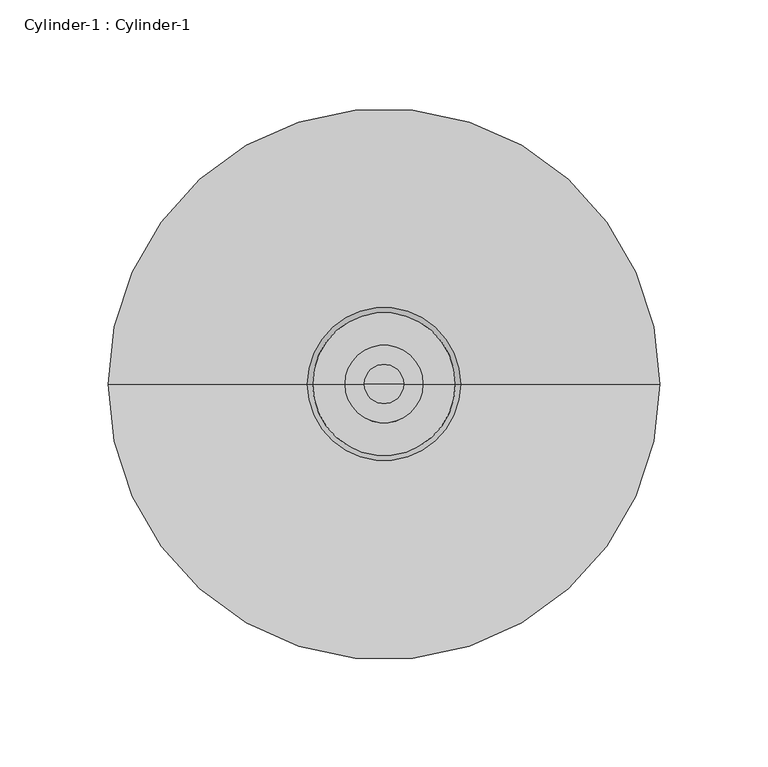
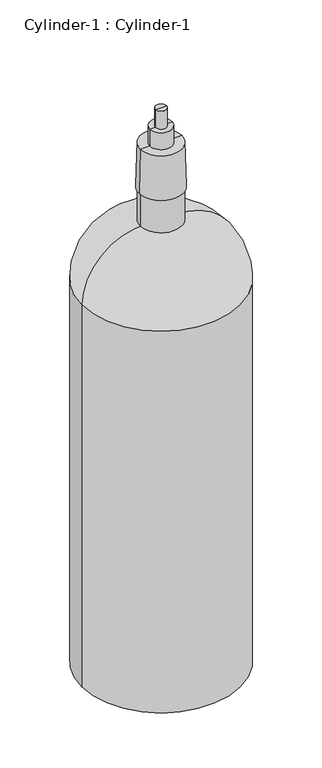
"""IFC4 building model written with IfcOpenShell, lengths in millimetres: alarm geometry, Cylinder-1 : Cylinder-1."""

from ifc_helpers import new_model, si_unit, point, frame, origin, place, context, project, spatial, polyline, circle_curve, ellipse_curve, trimmed, source, transform, mapped, element, save
from ifc_brep_helpers import plane_surface, cylinder_surface, revolved_surface, advanced_brep


def cylinder_1_cylinder_1_a0b04ee7(model_context):
    return source(origin(), model_context, "Body", "AdvancedBrep", [
        advanced_brep(
        [(9.0219829, 0.0, 906.6426081), (-9.0219829, 0.0, 906.6426081), (-9.0219829, 0.0, 936.75), (9.0219829, 0.0, 936.75), (17.9261315, 0.0, 906.6426081), (-17.9261315, 0.0, 906.6426081), (17.9261315, 0.0, 878.25926), (-17.9261315, 0.0, 878.25926), (32.9524445, 0.0, 878.25926), (-32.9524445, 0.0, 878.25926), (35.2648942, 0.0, 803.777946), (-35.2648942, 0.0, 803.777946), (33.1140302, 0.0, 803.777946), (-33.1140302, 0.0, 803.777946), (33.1817509, 0.0, 748.0909881), (-33.1817509, 0.0, 748.0909881), (0.0, 0.0, 748.0909881), (0.0, 0.0, 936.75)],
        [
            (0, 1, circle_curve(frame((0.0, 0.0, 906.6426081), z_axis=(0.0, 0.0, 1.0), x_axis=(-1.0, 0.0, 0.0)), 9.0219829)),
            (1, 2),
            (2, 3, circle_curve(frame((0.0, 0.0, 936.75), z_axis=(0.0, 0.0, -1.0), x_axis=(-1.0, 0.0, 0.0)), 9.0219829)),
            (3, 0),
            (1, 0, circle_curve(frame((0.0, 0.0, 906.6426081), z_axis=(0.0, 0.0, 1.0), x_axis=(-1.0, 0.0, 0.0)), 9.0219829)),
            (3, 2, circle_curve(frame((0.0, 0.0, 936.75), z_axis=(0.0, 0.0, -1.0), x_axis=(-1.0, 0.0, 0.0)), 9.0219829)),
            (4, 5, circle_curve(frame((0.0, 0.0, 906.6426081), z_axis=(0.0, 0.0, 1.0), x_axis=(-1.0, 0.0, 0.0)), 17.9261315)),
            (5, 1),
            (0, 4),
            (5, 4, circle_curve(frame((0.0, 0.0, 906.6426081), z_axis=(0.0, 0.0, 1.0), x_axis=(-1.0, 0.0, 0.0)), 17.9261315)),
            (6, 7, circle_curve(frame((0.0, 0.0, 878.25926), z_axis=(0.0, 0.0, 1.0), x_axis=(-1.0, 0.0, 0.0)), 17.9261315)),
            (7, 5),
            (4, 6),
            (7, 6, circle_curve(frame((0.0, 0.0, 878.25926), z_axis=(0.0, 0.0, 1.0), x_axis=(-1.0, 0.0, 0.0)), 17.9261315)),
            (8, 9, circle_curve(frame((0.0, 0.0, 878.25926), z_axis=(0.0, 0.0, 1.0), x_axis=(-1.0, 0.0, 0.0)), 32.9524445)),
            (9, 7),
            (6, 8),
            (9, 8, circle_curve(frame((0.0, 0.0, 878.25926), z_axis=(0.0, 0.0, 1.0), x_axis=(-1.0, 0.0, 0.0)), 32.9524445)),
            (10, 11, circle_curve(frame((0.0, 0.0, 803.777946), z_axis=(0.0, 0.0, 1.0), x_axis=(-1.0, 0.0, 0.0)), 35.2648942)),
            (11, 9),
            (8, 10),
            (11, 10, circle_curve(frame((0.0, 0.0, 803.777946), z_axis=(0.0, 0.0, 1.0), x_axis=(-1.0, 0.0, 0.0)), 35.2648942)),
            (12, 13, circle_curve(frame((0.0, 0.0, 803.777946), z_axis=(0.0, 0.0, 1.0), x_axis=(-1.0, 0.0, 0.0)), 33.1140302)),
            (13, 11),
            (10, 12),
            (13, 12, circle_curve(frame((0.0, 0.0, 803.777946), z_axis=(0.0, 0.0, 1.0), x_axis=(-1.0, 0.0, 0.0)), 33.1140302)),
            (14, 15, circle_curve(frame((0.0, 0.0, 748.0909881), z_axis=(0.0, 0.0, 1.0), x_axis=(-1.0, 0.0, 0.0)), 33.1817509)),
            (15, 13),
            (12, 14),
            (15, 14, circle_curve(frame((0.0, 0.0, 748.0909881), z_axis=(0.0, 0.0, 1.0), x_axis=(-1.0, 0.0, 0.0)), 33.1817509)),
            (16, 15),
            (14, 16),
            (2, 17),
            (17, 3),
        ],
        [
            cylinder_surface(frame((0.0, 0.0, 1091.0996609), z_axis=(0.0, 0.0, -1.0), x_axis=(-1.0, 0.0, 0.0)), 9.0219829),
            plane_surface(frame((0.0, 0.0, 906.6426081), z_axis=(0.0, 0.0, 1.0), x_axis=(-1.0, 0.0, 0.0))),
            cylinder_surface(frame((0.0, 0.0, 1091.0996609), z_axis=(0.0, 0.0, -1.0), x_axis=(-1.0, 0.0, 0.0)), 17.9261315),
            plane_surface(frame((0.0, 0.0, 878.25926), z_axis=(0.0, 0.0, 1.0), x_axis=(-1.0, 0.0, 0.0))),
            revolved_surface(polyline([(-32.9524445, 0.0, 878.25926), (-35.2648942, 0.0, 803.777946)]), (0.0, 0.0, 1091.0996609), (0.0, 0.0, -1.0)),
            plane_surface(frame((0.0, 0.0, 803.777946), z_axis=(0.0, 0.0, -1.0), x_axis=(-1.0, 0.0, 0.0))),
            cylinder_surface(frame((0.0, 0.0, 1091.0996609), z_axis=(0.0, 0.0, -1.0), x_axis=(-1.0, 0.0, 0.0)), 33.1817509),
            plane_surface(frame((0.0, 0.0, 748.0909881), z_axis=(0.0, 0.0, -1.0), x_axis=(-1.0, 0.0, 0.0))),
            plane_surface(frame((0.0, 0.0, 936.75), z_axis=(0.0, 0.0, 1.0), x_axis=(-1.0, 0.0, 0.0))),
        ],
        [
            (0, [[1, 2, 3, 4]]),
            (0, [[5, -4, 6, -2]]),
            (1, [[7, 8, -1, 9]]),
            (1, [[10, -9, -5, -8]]),
            (2, [[11, 12, -7, 13]]),
            (2, [[14, -13, -10, -12]]),
            (3, [[15, 16, -11, 17]]),
            (3, [[18, -17, -14, -16]]),
            (4, [[19, 20, -15, 21]]),
            (4, [[22, -21, -18, -20]]),
            (5, [[23, 24, -19, 25]]),
            (5, [[26, -25, -22, -24]]),
            (6, [[27, 28, -23, 29]]),
            (6, [[30, -29, -26, -28]]),
            (7, [[31, -27, 32]]),
            (7, [[-32, -30, -31]]),
            (8, [[-3, 33, 34]]),
            (8, [[-6, -34, -33]]),
        ],
    ),
        advanced_brep(
        [(0.0, 0.0, 0.0), (-127.0, 0.0, 0.0), (127.0, 0.0, 0.0), (-127.0, 0.0, 646.918714), (127.0, 0.0, 646.918714), (22.3833363, 0.0, 748.0909881), (-22.3833363, 0.0, 748.0909881), (0.0, 0.0, 748.0909881)],
        [
            (0, 1),
            (1, 2, circle_curve(frame((0.0, 0.0, 0.0), z_axis=(0.0, 0.0, -1.0), x_axis=(-1.0, 0.0, 0.0)), 127.0)),
            (2, 0),
            (2, 1, circle_curve(frame((0.0, 0.0, 0.0), z_axis=(0.0, 0.0, -1.0), x_axis=(-1.0, 0.0, 0.0)), 127.0)),
            (1, 3),
            (3, 4, circle_curve(frame((0.0, 0.0, 646.918714), z_axis=(0.0, 0.0, -1.0), x_axis=(-1.0, 0.0, 0.0)), 127.0)),
            (4, 2),
            (4, 3, circle_curve(frame((0.0, 0.0, 646.918714), z_axis=(0.0, 0.0, -1.0), x_axis=(-1.0, 0.0, 0.0)), 127.0)),
            (5, 6, circle_curve(frame((0.0, 0.0, 748.0909881), z_axis=(0.0, 0.0, 1.0), x_axis=(-1.0, 0.0, 0.0)), 22.3833363)),
            (6, 7),
            (7, 5),
            (6, 5, circle_curve(frame((0.0, 0.0, 748.0909881), z_axis=(0.0, 0.0, 1.0), x_axis=(-1.0, 0.0, 0.0)), 22.3833363)),
            (3, 6, circle_curve(frame((-25.7710246, 0.0, 646.918714), z_axis=(0.0, 1.0, 0.0), x_axis=(1.0, 0.0, 0.0)), 101.2289754)),
            (5, 4, circle_curve(frame((25.7710246, 0.0, 646.918714), z_axis=(0.0, 1.0, 0.0), x_axis=(-1.0, 0.0, 0.0)), 101.2289754)),
        ],
        [
            plane_surface(frame((0.0, 0.0, 0.0), z_axis=(0.0, 0.0, -1.0), x_axis=(-1.0, 0.0, 0.0))),
            cylinder_surface(frame((0.0, 0.0, 586.172274), z_axis=(0.0, 0.0, -1.0), x_axis=(-1.0, 0.0, 0.0)), 127.0),
            plane_surface(frame((0.0, 0.0, 748.0909881), z_axis=(0.0, 0.0, 1.0), x_axis=(-1.0, 0.0, 0.0))),
            revolved_surface(trimmed(ellipse_curve(frame((-25.7710246, 0.0, 646.918714), z_axis=(0.0, -1.0, 0.0), x_axis=(1.0, 0.0, 0.0)), 101.2289754, 101.2289754), [point((-22.3833363, 0.0, 748.0909881))], [point((-127.0, 0.0, 646.918714))], True, "CARTESIAN"), (0.0, 0.0, 586.172274), (0.0, 0.0, -1.0)),
        ],
        [
            (0, [[1, 2, 3]]),
            (0, [[-3, 4, -1]]),
            (1, [[-2, 5, 6, 7]]),
            (1, [[-4, -7, 8, -5]]),
            (2, [[9, 10, 11]]),
            (2, [[12, -11, -10]]),
            (3, [[-6, 13, -9, 14]]),
            (3, [[-8, -14, -12, -13]]),
        ],
    ),
    ])


if __name__ == "__main__":
    model = new_model("IFC4")
    model_context = context("Model", 3, world=origin())
    ifc_project = project(units=[si_unit("LENGTHUNIT", "METRE", prefix="MILLI")], contexts=[model_context])
    site = spatial("IfcSite", under=ifc_project)
    building = spatial("IfcBuilding", under=site)
    placement = place(None, origin())
    cylinder_1_cylinder_1_shape = cylinder_1_cylinder_1_a0b04ee7(model_context)
    element("IfcAlarm", 1, ObjectType="Cylinder-1 : Cylinder-1", at=placement, inside=building, context=model_context, shape_type="MappedRepresentation", body=[
        mapped(cylinder_1_cylinder_1_shape, transform((0.0, 0.0, 0.0), x_axis=(1.0, 0.0, 0.0), y_axis=(0.0, 1.0, 0.0), z_axis=(0.0, 0.0, 1.0))),
    ])
    save(model, "model.ifc")
